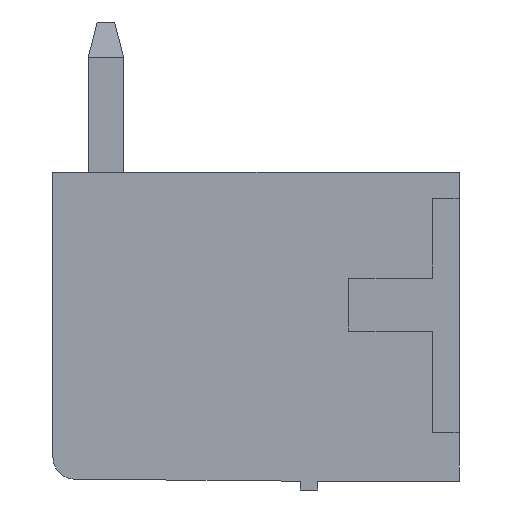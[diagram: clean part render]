
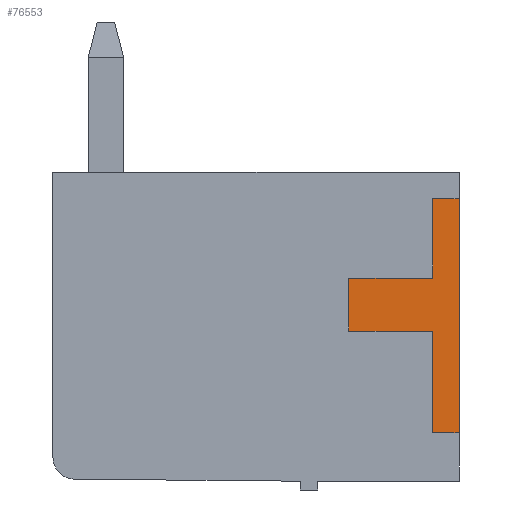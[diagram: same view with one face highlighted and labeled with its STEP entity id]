
A CAD part, left-side view. The second image highlights one B-rep face of the part: STEP entity #76553.
In plain terms, the highlighted planar face has unit normal (-1, 0, 0).
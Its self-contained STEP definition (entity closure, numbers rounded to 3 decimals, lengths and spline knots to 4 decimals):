
#1803 = PLANE('',#1804);
#1804 = AXIS2_PLACEMENT_3D('',#1805,#1806,#1807);
#1805 = CARTESIAN_POINT('',(0.,0.,7.));
#1806 = DIRECTION('',(0.,-1.,0.));
#1807 = DIRECTION('',(0.,0.,-1.));
#2297 = VERTEX_POINT('',#2298);
#2298 = CARTESIAN_POINT('',(-0.2,0.,1.1));
#2312 = PLANE('',#2313);
#2313 = AXIS2_PLACEMENT_3D('',#2314,#2315,#2316);
#2314 = CARTESIAN_POINT('',(0.,0.6,1.1));
#2315 = DIRECTION('',(0.,0.,-1.));
#2316 = DIRECTION('',(0.,-1.,0.));
#2324 = EDGE_CURVE('',#2297,#2325,#2327,.T.);
#2325 = VERTEX_POINT('',#2326);
#2326 = CARTESIAN_POINT('',(-0.2,0.,6.4));
#2327 = SURFACE_CURVE('',#2328,(#2332,#2339),.PCURVE_S1.);
#2328 = LINE('',#2329,#2330);
#2329 = CARTESIAN_POINT('',(-0.2,0.,1.1));
#2330 = VECTOR('',#2331,1.);
#2331 = DIRECTION('',(0.,0.,1.));
#2332 = PCURVE('',#1803,#2333);
#2333 = DEFINITIONAL_REPRESENTATION('',(#2334),#2338);
#2334 = LINE('',#2335,#2336);
#2335 = CARTESIAN_POINT('',(5.9,-0.2));
#2336 = VECTOR('',#2337,1.);
#2337 = DIRECTION('',(-1.,0.));
#2338 = ( GEOMETRIC_REPRESENTATION_CONTEXT(2) 
PARAMETRIC_REPRESENTATION_CONTEXT() REPRESENTATION_CONTEXT('2D SPACE',''
  ) );
#2339 = PCURVE('',#2340,#2345);
#2340 = PLANE('',#2341);
#2341 = AXIS2_PLACEMENT_3D('',#2342,#2343,#2344);
#2342 = CARTESIAN_POINT('',(-0.2,0.,0.));
#2343 = DIRECTION('',(-1.,0.,0.));
#2344 = DIRECTION('',(0.,0.,1.));
#2345 = DEFINITIONAL_REPRESENTATION('',(#2346),#2350);
#2346 = LINE('',#2347,#2348);
#2347 = CARTESIAN_POINT('',(1.1,0.));
#2348 = VECTOR('',#2349,1.);
#2349 = DIRECTION('',(1.,0.));
#2350 = ( GEOMETRIC_REPRESENTATION_CONTEXT(2) 
PARAMETRIC_REPRESENTATION_CONTEXT() REPRESENTATION_CONTEXT('2D SPACE',''
  ) );
#2368 = PLANE('',#2369);
#2369 = AXIS2_PLACEMENT_3D('',#2370,#2371,#2372);
#2370 = CARTESIAN_POINT('',(0.,0.,6.4));
#2371 = DIRECTION('',(0.,0.,1.));
#2372 = DIRECTION('',(0.,1.,0.));
#22926 = PLANE('',#22927);
#22927 = AXIS2_PLACEMENT_3D('',#22928,#22929,#22930);
#22928 = CARTESIAN_POINT('',(0.,0.6,6.4));
#22929 = DIRECTION('',(0.,1.,0.));
#22930 = DIRECTION('',(0.,0.,-1.));
#22954 = PLANE('',#22955);
#22955 = AXIS2_PLACEMENT_3D('',#22956,#22957,#22958);
#22956 = CARTESIAN_POINT('',(0.,0.6,4.6));
#22957 = DIRECTION('',(0.,0.,1.));
#22958 = DIRECTION('',(0.,1.,0.));
#22982 = PLANE('',#22983);
#22983 = AXIS2_PLACEMENT_3D('',#22984,#22985,#22986);
#22984 = CARTESIAN_POINT('',(0.,2.5,4.6));
#22985 = DIRECTION('',(0.,1.,0.));
#22986 = DIRECTION('',(0.,0.,-1.));
#23010 = PLANE('',#23011);
#23011 = AXIS2_PLACEMENT_3D('',#23012,#23013,#23014);
#23012 = CARTESIAN_POINT('',(0.,2.5,3.4));
#23013 = DIRECTION('',(0.,0.,-1.));
#23014 = DIRECTION('',(0.,-1.,0.));
#23038 = PLANE('',#23039);
#23039 = AXIS2_PLACEMENT_3D('',#23040,#23041,#23042);
#23040 = CARTESIAN_POINT('',(0.,0.6,3.4));
#23041 = DIRECTION('',(0.,1.,0.));
#23042 = DIRECTION('',(0.,0.,-1.));
#76510 = EDGE_CURVE('',#2325,#76511,#76513,.T.);
#76511 = VERTEX_POINT('',#76512);
#76512 = CARTESIAN_POINT('',(-0.2,0.6,6.4));
#76513 = SURFACE_CURVE('',#76514,(#76518,#76525),.PCURVE_S1.);
#76514 = LINE('',#76515,#76516);
#76515 = CARTESIAN_POINT('',(-0.2,0.,6.4));
#76516 = VECTOR('',#76517,1.);
#76517 = DIRECTION('',(0.,1.,0.));
#76518 = PCURVE('',#2368,#76519);
#76519 = DEFINITIONAL_REPRESENTATION('',(#76520),#76524);
#76520 = LINE('',#76521,#76522);
#76521 = CARTESIAN_POINT('',(0.,0.2));
#76522 = VECTOR('',#76523,1.);
#76523 = DIRECTION('',(1.,0.));
#76524 = ( GEOMETRIC_REPRESENTATION_CONTEXT(2) 
PARAMETRIC_REPRESENTATION_CONTEXT() REPRESENTATION_CONTEXT('2D SPACE',''
  ) );
#76525 = PCURVE('',#2340,#76526);
#76526 = DEFINITIONAL_REPRESENTATION('',(#76527),#76531);
#76527 = LINE('',#76528,#76529);
#76528 = CARTESIAN_POINT('',(6.4,0.));
#76529 = VECTOR('',#76530,1.);
#76530 = DIRECTION('',(0.,1.));
#76531 = ( GEOMETRIC_REPRESENTATION_CONTEXT(2) 
PARAMETRIC_REPRESENTATION_CONTEXT() REPRESENTATION_CONTEXT('2D SPACE',''
  ) );
#76553 = ADVANCED_FACE('',(#76554),#2340,.T.);
#76554 = FACE_BOUND('',#76555,.F.);
#76555 = EDGE_LOOP('',(#76556,#76557,#76558,#76581,#76604,#76627,#76650,
    #76673));
#76556 = ORIENTED_EDGE('',*,*,#76510,.F.);
#76557 = ORIENTED_EDGE('',*,*,#2324,.F.);
#76558 = ORIENTED_EDGE('',*,*,#76559,.F.);
#76559 = EDGE_CURVE('',#76560,#2297,#76562,.T.);
#76560 = VERTEX_POINT('',#76561);
#76561 = CARTESIAN_POINT('',(-0.2,0.6,1.1));
#76562 = SURFACE_CURVE('',#76563,(#76567,#76574),.PCURVE_S1.);
#76563 = LINE('',#76564,#76565);
#76564 = CARTESIAN_POINT('',(-0.2,0.6,1.1));
#76565 = VECTOR('',#76566,1.);
#76566 = DIRECTION('',(0.,-1.,0.));
#76567 = PCURVE('',#2340,#76568);
#76568 = DEFINITIONAL_REPRESENTATION('',(#76569),#76573);
#76569 = LINE('',#76570,#76571);
#76570 = CARTESIAN_POINT('',(1.1,0.6));
#76571 = VECTOR('',#76572,1.);
#76572 = DIRECTION('',(0.,-1.));
#76573 = ( GEOMETRIC_REPRESENTATION_CONTEXT(2) 
PARAMETRIC_REPRESENTATION_CONTEXT() REPRESENTATION_CONTEXT('2D SPACE',''
  ) );
#76574 = PCURVE('',#2312,#76575);
#76575 = DEFINITIONAL_REPRESENTATION('',(#76576),#76580);
#76576 = LINE('',#76577,#76578);
#76577 = CARTESIAN_POINT('',(0.,0.2));
#76578 = VECTOR('',#76579,1.);
#76579 = DIRECTION('',(1.,0.));
#76580 = ( GEOMETRIC_REPRESENTATION_CONTEXT(2) 
PARAMETRIC_REPRESENTATION_CONTEXT() REPRESENTATION_CONTEXT('2D SPACE',''
  ) );
#76581 = ORIENTED_EDGE('',*,*,#76582,.F.);
#76582 = EDGE_CURVE('',#76583,#76560,#76585,.T.);
#76583 = VERTEX_POINT('',#76584);
#76584 = CARTESIAN_POINT('',(-0.2,0.6,3.4));
#76585 = SURFACE_CURVE('',#76586,(#76590,#76597),.PCURVE_S1.);
#76586 = LINE('',#76587,#76588);
#76587 = CARTESIAN_POINT('',(-0.2,0.6,3.4));
#76588 = VECTOR('',#76589,1.);
#76589 = DIRECTION('',(0.,0.,-1.));
#76590 = PCURVE('',#2340,#76591);
#76591 = DEFINITIONAL_REPRESENTATION('',(#76592),#76596);
#76592 = LINE('',#76593,#76594);
#76593 = CARTESIAN_POINT('',(3.4,0.6));
#76594 = VECTOR('',#76595,1.);
#76595 = DIRECTION('',(-1.,0.));
#76596 = ( GEOMETRIC_REPRESENTATION_CONTEXT(2) 
PARAMETRIC_REPRESENTATION_CONTEXT() REPRESENTATION_CONTEXT('2D SPACE',''
  ) );
#76597 = PCURVE('',#23038,#76598);
#76598 = DEFINITIONAL_REPRESENTATION('',(#76599),#76603);
#76599 = LINE('',#76600,#76601);
#76600 = CARTESIAN_POINT('',(0.,0.2));
#76601 = VECTOR('',#76602,1.);
#76602 = DIRECTION('',(1.,0.));
#76603 = ( GEOMETRIC_REPRESENTATION_CONTEXT(2) 
PARAMETRIC_REPRESENTATION_CONTEXT() REPRESENTATION_CONTEXT('2D SPACE',''
  ) );
#76604 = ORIENTED_EDGE('',*,*,#76605,.F.);
#76605 = EDGE_CURVE('',#76606,#76583,#76608,.T.);
#76606 = VERTEX_POINT('',#76607);
#76607 = CARTESIAN_POINT('',(-0.2,2.5,3.4));
#76608 = SURFACE_CURVE('',#76609,(#76613,#76620),.PCURVE_S1.);
#76609 = LINE('',#76610,#76611);
#76610 = CARTESIAN_POINT('',(-0.2,2.5,3.4));
#76611 = VECTOR('',#76612,1.);
#76612 = DIRECTION('',(0.,-1.,0.));
#76613 = PCURVE('',#2340,#76614);
#76614 = DEFINITIONAL_REPRESENTATION('',(#76615),#76619);
#76615 = LINE('',#76616,#76617);
#76616 = CARTESIAN_POINT('',(3.4,2.5));
#76617 = VECTOR('',#76618,1.);
#76618 = DIRECTION('',(0.,-1.));
#76619 = ( GEOMETRIC_REPRESENTATION_CONTEXT(2) 
PARAMETRIC_REPRESENTATION_CONTEXT() REPRESENTATION_CONTEXT('2D SPACE',''
  ) );
#76620 = PCURVE('',#23010,#76621);
#76621 = DEFINITIONAL_REPRESENTATION('',(#76622),#76626);
#76622 = LINE('',#76623,#76624);
#76623 = CARTESIAN_POINT('',(0.,0.2));
#76624 = VECTOR('',#76625,1.);
#76625 = DIRECTION('',(1.,0.));
#76626 = ( GEOMETRIC_REPRESENTATION_CONTEXT(2) 
PARAMETRIC_REPRESENTATION_CONTEXT() REPRESENTATION_CONTEXT('2D SPACE',''
  ) );
#76627 = ORIENTED_EDGE('',*,*,#76628,.F.);
#76628 = EDGE_CURVE('',#76629,#76606,#76631,.T.);
#76629 = VERTEX_POINT('',#76630);
#76630 = CARTESIAN_POINT('',(-0.2,2.5,4.6));
#76631 = SURFACE_CURVE('',#76632,(#76636,#76643),.PCURVE_S1.);
#76632 = LINE('',#76633,#76634);
#76633 = CARTESIAN_POINT('',(-0.2,2.5,4.6));
#76634 = VECTOR('',#76635,1.);
#76635 = DIRECTION('',(0.,0.,-1.));
#76636 = PCURVE('',#2340,#76637);
#76637 = DEFINITIONAL_REPRESENTATION('',(#76638),#76642);
#76638 = LINE('',#76639,#76640);
#76639 = CARTESIAN_POINT('',(4.6,2.5));
#76640 = VECTOR('',#76641,1.);
#76641 = DIRECTION('',(-1.,0.));
#76642 = ( GEOMETRIC_REPRESENTATION_CONTEXT(2) 
PARAMETRIC_REPRESENTATION_CONTEXT() REPRESENTATION_CONTEXT('2D SPACE',''
  ) );
#76643 = PCURVE('',#22982,#76644);
#76644 = DEFINITIONAL_REPRESENTATION('',(#76645),#76649);
#76645 = LINE('',#76646,#76647);
#76646 = CARTESIAN_POINT('',(0.,0.2));
#76647 = VECTOR('',#76648,1.);
#76648 = DIRECTION('',(1.,0.));
#76649 = ( GEOMETRIC_REPRESENTATION_CONTEXT(2) 
PARAMETRIC_REPRESENTATION_CONTEXT() REPRESENTATION_CONTEXT('2D SPACE',''
  ) );
#76650 = ORIENTED_EDGE('',*,*,#76651,.F.);
#76651 = EDGE_CURVE('',#76652,#76629,#76654,.T.);
#76652 = VERTEX_POINT('',#76653);
#76653 = CARTESIAN_POINT('',(-0.2,0.6,4.6));
#76654 = SURFACE_CURVE('',#76655,(#76659,#76666),.PCURVE_S1.);
#76655 = LINE('',#76656,#76657);
#76656 = CARTESIAN_POINT('',(-0.2,0.6,4.6));
#76657 = VECTOR('',#76658,1.);
#76658 = DIRECTION('',(0.,1.,0.));
#76659 = PCURVE('',#2340,#76660);
#76660 = DEFINITIONAL_REPRESENTATION('',(#76661),#76665);
#76661 = LINE('',#76662,#76663);
#76662 = CARTESIAN_POINT('',(4.6,0.6));
#76663 = VECTOR('',#76664,1.);
#76664 = DIRECTION('',(0.,1.));
#76665 = ( GEOMETRIC_REPRESENTATION_CONTEXT(2) 
PARAMETRIC_REPRESENTATION_CONTEXT() REPRESENTATION_CONTEXT('2D SPACE',''
  ) );
#76666 = PCURVE('',#22954,#76667);
#76667 = DEFINITIONAL_REPRESENTATION('',(#76668),#76672);
#76668 = LINE('',#76669,#76670);
#76669 = CARTESIAN_POINT('',(0.,0.2));
#76670 = VECTOR('',#76671,1.);
#76671 = DIRECTION('',(1.,0.));
#76672 = ( GEOMETRIC_REPRESENTATION_CONTEXT(2) 
PARAMETRIC_REPRESENTATION_CONTEXT() REPRESENTATION_CONTEXT('2D SPACE',''
  ) );
#76673 = ORIENTED_EDGE('',*,*,#76674,.F.);
#76674 = EDGE_CURVE('',#76511,#76652,#76675,.T.);
#76675 = SURFACE_CURVE('',#76676,(#76680,#76687),.PCURVE_S1.);
#76676 = LINE('',#76677,#76678);
#76677 = CARTESIAN_POINT('',(-0.2,0.6,6.4));
#76678 = VECTOR('',#76679,1.);
#76679 = DIRECTION('',(0.,0.,-1.));
#76680 = PCURVE('',#2340,#76681);
#76681 = DEFINITIONAL_REPRESENTATION('',(#76682),#76686);
#76682 = LINE('',#76683,#76684);
#76683 = CARTESIAN_POINT('',(6.4,0.6));
#76684 = VECTOR('',#76685,1.);
#76685 = DIRECTION('',(-1.,0.));
#76686 = ( GEOMETRIC_REPRESENTATION_CONTEXT(2) 
PARAMETRIC_REPRESENTATION_CONTEXT() REPRESENTATION_CONTEXT('2D SPACE',''
  ) );
#76687 = PCURVE('',#22926,#76688);
#76688 = DEFINITIONAL_REPRESENTATION('',(#76689),#76693);
#76689 = LINE('',#76690,#76691);
#76690 = CARTESIAN_POINT('',(0.,0.2));
#76691 = VECTOR('',#76692,1.);
#76692 = DIRECTION('',(1.,0.));
#76693 = ( GEOMETRIC_REPRESENTATION_CONTEXT(2) 
PARAMETRIC_REPRESENTATION_CONTEXT() REPRESENTATION_CONTEXT('2D SPACE',''
  ) );
